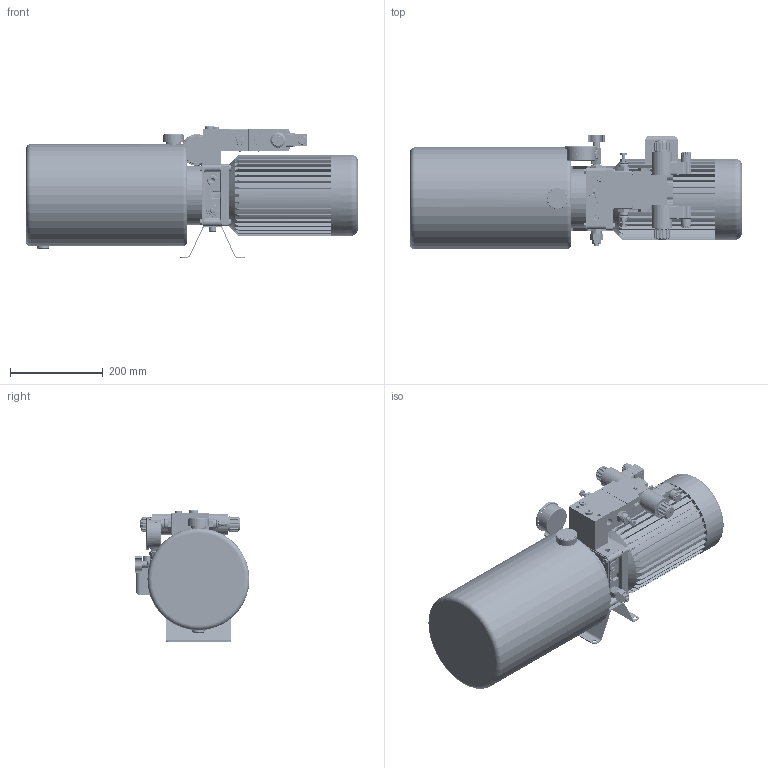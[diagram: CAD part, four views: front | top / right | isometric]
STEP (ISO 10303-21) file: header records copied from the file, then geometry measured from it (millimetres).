
FILE_DESCRIPTION(/* description */ (''),/* implementation_level */ '2;1');
FILE_NAME(/* name */ 'C:\Users\stolbov\Documents\Inventor\!Хлам\PPC-KV-SAM012-3-140-11.stp',/* time_stamp */ '2019-05-28T15:57:27+03:00',/* author */ ('stolbov'),/* organization */ (''),/* preprocessor_version */ 'ST-DEVELOPER v18',/* originating_system */ 'Autodesk Inventor 2020',/* authorisation */ '');
FILE_SCHEMA (('AUTOMOTIVE_DESIGN { 1 0 10303 214 3 1 1 }'));
Products named in the file (1): Деталь6
Bounding box: 716 x 247.66 x 282.59 mm (x, y, z)
Volume: 8917933.6 mm3; surface area: 1497413.3 mm2
Topology: 47 solids, 77 shells, 7718 faces, 20571 edges, 13363 vertices
Faces by surface type: plane 2876, cylinder 2247, bspline 1172, cone 896, torus 335, sphere 192
Full cylindrical faces by diameter (mm): 0.2 x1, 1.7 x4, 2.459 x2, 2.52 x1, 2.6 x2, 3 x10, 3.5 x3, 4 x17, 4.48 x2, 4.917 x7, 5 x6, 5.2 x1, 5.5 x13, 5.707 x1, 6 x60, 6.025 x2, 6.3 x2, 6.35 x1, 6.42 x2, 6.647 x4, 7 x9, 7.5 x9, 7.9 x1, 8 x122, 8.2 x2, 8.3 x1, 8.5 x8, 8.566 x1, 8.75 x4, 9 x10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
Entity records: 430644 total; most frequent: CARTESIAN_POINT 231766, ORIENTED_EDGE 40846, DIRECTION 40240, EDGE_CURVE 20423, AXIS2_PLACEMENT_3D 15833, VERTEX_POINT 13363, LINE 8574, VECTOR 8574
